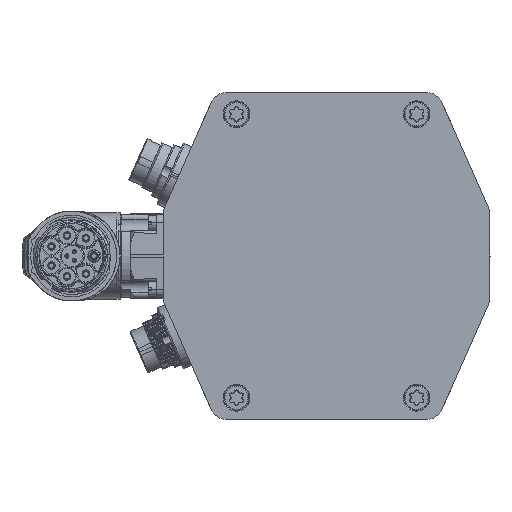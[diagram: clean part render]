
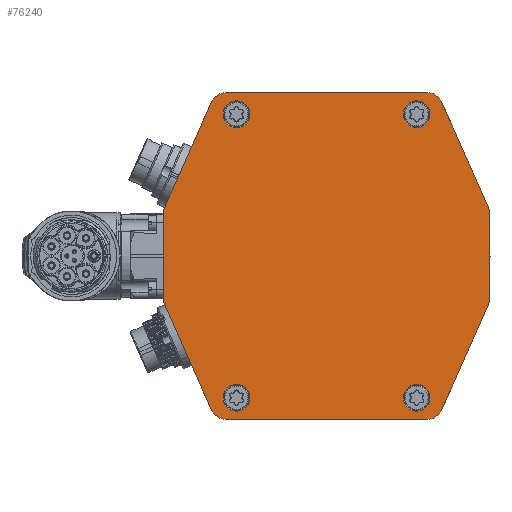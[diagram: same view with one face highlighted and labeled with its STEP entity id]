
A CAD part, left-side view. The second image highlights one B-rep face of the part: STEP entity #76240.
In plain terms, the highlighted planar face has unit normal (-1, 0, 0).
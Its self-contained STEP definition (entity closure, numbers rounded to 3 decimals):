
#6171=CARTESIAN_POINT('',(-275.,-30.,-44.));
#6172=DIRECTION('',(-1.,0.,0.));
#6173=DIRECTION('',(0.,0.,-1.));
#6174=AXIS2_PLACEMENT_3D('',#6171,#6172,#6173);
#6176=DIRECTION('',(0.,-1.,0.));
#6177=VECTOR('',#6176,60.);
#6178=CARTESIAN_POINT('',(-275.,30.,-49.));
#6179=LINE('',#6178,#6177);
#6180=CARTESIAN_POINT('',(-275.,30.,-44.));
#6181=DIRECTION('',(-1.,0.,0.));
#6182=DIRECTION('',(0.,0.914,-0.405));
#6183=AXIS2_PLACEMENT_3D('',#6180,#6181,#6182);
#6185=DIRECTION('',(0.,-0.405,-0.914));
#6186=VECTOR('',#6185,35.228);
#6187=CARTESIAN_POINT('',(-275.,48.829,-13.809));
#6188=LINE('',#6187,#6186);
#6189=CARTESIAN_POINT('',(-275.,47.,-13.));
#6190=DIRECTION('',(-1.,0.,0.));
#6191=DIRECTION('',(0.,1.,0.));
#6192=AXIS2_PLACEMENT_3D('',#6189,#6190,#6191);
#6194=DIRECTION('',(0.,0.,-1.));
#6195=VECTOR('',#6194,26.);
#6196=CARTESIAN_POINT('',(-275.,49.,13.));
#6197=LINE('',#6196,#6195);
#6198=CARTESIAN_POINT('',(-275.,47.,13.));
#6199=DIRECTION('',(-1.,0.,0.));
#6200=DIRECTION('',(0.,0.914,0.405));
#6201=AXIS2_PLACEMENT_3D('',#6198,#6199,#6200);
#6203=DIRECTION('',(0.,0.405,-0.914));
#6204=VECTOR('',#6203,35.228);
#6205=CARTESIAN_POINT('',(-275.,34.572,46.023));
#6206=LINE('',#6205,#6204);
#6207=CARTESIAN_POINT('',(-275.,30.,44.));
#6208=DIRECTION('',(-1.,0.,0.));
#6209=DIRECTION('',(0.,0.,1.));
#6210=AXIS2_PLACEMENT_3D('',#6207,#6208,#6209);
#6212=DIRECTION('',(0.,1.,0.));
#6213=VECTOR('',#6212,60.);
#6214=CARTESIAN_POINT('',(-275.,-30.,49.));
#6215=LINE('',#6214,#6213);
#6216=CARTESIAN_POINT('',(-275.,-30.,44.));
#6217=DIRECTION('',(-1.,0.,0.));
#6218=DIRECTION('',(0.,-0.914,0.405));
#6219=AXIS2_PLACEMENT_3D('',#6216,#6217,#6218);
#6221=DIRECTION('',(0.,0.405,0.914));
#6222=VECTOR('',#6221,35.228);
#6223=CARTESIAN_POINT('',(-275.,-48.829,13.809));
#6224=LINE('',#6223,#6222);
#6225=CARTESIAN_POINT('',(-275.,-47.,13.));
#6226=DIRECTION('',(-1.,0.,0.));
#6227=DIRECTION('',(0.,-1.,0.));
#6228=AXIS2_PLACEMENT_3D('',#6225,#6226,#6227);
#6230=DIRECTION('',(0.,0.,1.));
#6231=VECTOR('',#6230,26.);
#6232=CARTESIAN_POINT('',(-275.,-49.,-13.));
#6233=LINE('',#6232,#6231);
#6234=CARTESIAN_POINT('',(-275.,-47.,-13.));
#6235=DIRECTION('',(-1.,0.,0.));
#6236=DIRECTION('',(0.,-0.914,-0.405));
#6237=AXIS2_PLACEMENT_3D('',#6234,#6235,#6236);
#6239=DIRECTION('',(0.,-0.405,0.914));
#6240=VECTOR('',#6239,35.228);
#6241=CARTESIAN_POINT('',(-275.,-34.572,-46.023));
#6242=LINE('',#6241,#6240);
#6243=CARTESIAN_POINT('',(-275.,27.,-42.5));
#6244=DIRECTION('',(-1.,0.,0.));
#6245=DIRECTION('',(0.,0.,-1.));
#6246=AXIS2_PLACEMENT_3D('',#6243,#6244,#6245);
#6248=CARTESIAN_POINT('',(-275.,27.,-42.5));
#6249=DIRECTION('',(-1.,0.,0.));
#6250=DIRECTION('',(0.,0.,1.));
#6251=AXIS2_PLACEMENT_3D('',#6248,#6249,#6250);
#6253=CARTESIAN_POINT('',(-275.,27.,42.5));
#6254=DIRECTION('',(1.,0.,0.));
#6255=DIRECTION('',(0.,0.,1.));
#6256=AXIS2_PLACEMENT_3D('',#6253,#6254,#6255);
#6258=CARTESIAN_POINT('',(-275.,27.,42.5));
#6259=DIRECTION('',(1.,0.,0.));
#6260=DIRECTION('',(0.,0.,-1.));
#6261=AXIS2_PLACEMENT_3D('',#6258,#6259,#6260);
#6263=CARTESIAN_POINT('',(-275.,-27.,-42.5));
#6264=DIRECTION('',(1.,0.,0.));
#6265=DIRECTION('',(0.,0.,-1.));
#6266=AXIS2_PLACEMENT_3D('',#6263,#6264,#6265);
#6268=CARTESIAN_POINT('',(-275.,-27.,-42.5));
#6269=DIRECTION('',(1.,0.,0.));
#6270=DIRECTION('',(0.,0.,1.));
#6271=AXIS2_PLACEMENT_3D('',#6268,#6269,#6270);
#6273=CARTESIAN_POINT('',(-275.,-27.,42.5));
#6274=DIRECTION('',(-1.,0.,0.));
#6275=DIRECTION('',(0.,0.,1.));
#6276=AXIS2_PLACEMENT_3D('',#6273,#6274,#6275);
#6278=CARTESIAN_POINT('',(-275.,-27.,42.5));
#6279=DIRECTION('',(-1.,0.,0.));
#6280=DIRECTION('',(0.,0.,-1.));
#6281=AXIS2_PLACEMENT_3D('',#6278,#6279,#6280);
#68303=CARTESIAN_POINT('',(-275.,-30.,-49.));
#68304=CARTESIAN_POINT('',(-275.,-34.572,-46.023));
#68305=VERTEX_POINT('',#68303);
#68306=VERTEX_POINT('',#68304);
#68307=CARTESIAN_POINT('',(-275.,-48.829,-13.809));
#68308=VERTEX_POINT('',#68307);
#68309=CARTESIAN_POINT('',(-275.,-49.,-13.));
#68310=VERTEX_POINT('',#68309);
#68311=CARTESIAN_POINT('',(-275.,-49.,13.));
#68312=VERTEX_POINT('',#68311);
#68313=CARTESIAN_POINT('',(-275.,-48.829,13.809));
#68314=VERTEX_POINT('',#68313);
#68315=CARTESIAN_POINT('',(-275.,-34.572,46.023));
#68316=VERTEX_POINT('',#68315);
#68317=CARTESIAN_POINT('',(-275.,-30.,49.));
#68318=VERTEX_POINT('',#68317);
#68319=CARTESIAN_POINT('',(-275.,30.,49.));
#68320=VERTEX_POINT('',#68319);
#68321=CARTESIAN_POINT('',(-275.,34.572,46.023));
#68322=VERTEX_POINT('',#68321);
#68323=CARTESIAN_POINT('',(-275.,48.829,13.809));
#68324=VERTEX_POINT('',#68323);
#68325=CARTESIAN_POINT('',(-275.,49.,13.));
#68326=VERTEX_POINT('',#68325);
#68327=CARTESIAN_POINT('',(-275.,49.,-13.));
#68328=VERTEX_POINT('',#68327);
#68329=CARTESIAN_POINT('',(-275.,48.829,-13.809));
#68330=VERTEX_POINT('',#68329);
#68331=CARTESIAN_POINT('',(-275.,34.572,-46.023));
#68332=VERTEX_POINT('',#68331);
#68333=CARTESIAN_POINT('',(-275.,30.,-49.));
#68334=VERTEX_POINT('',#68333);
#68347=CARTESIAN_POINT('',(-275.,27.,-46.5));
#68348=CARTESIAN_POINT('',(-275.,27.,-38.5));
#68349=VERTEX_POINT('',#68347);
#68350=VERTEX_POINT('',#68348);
#68355=CARTESIAN_POINT('',(-275.,27.,46.5));
#68356=VERTEX_POINT('',#68355);
#68357=CARTESIAN_POINT('',(-275.,27.,38.5));
#68358=VERTEX_POINT('',#68357);
#68363=CARTESIAN_POINT('',(-275.,-27.,-46.5));
#68364=VERTEX_POINT('',#68363);
#68365=CARTESIAN_POINT('',(-275.,-27.,-38.5));
#68366=VERTEX_POINT('',#68365);
#68371=CARTESIAN_POINT('',(-275.,-27.,46.5));
#68372=VERTEX_POINT('',#68371);
#68373=CARTESIAN_POINT('',(-275.,-27.,38.5));
#68374=VERTEX_POINT('',#68373);
#76193=CARTESIAN_POINT('',(-275.,0.,0.));
#76194=DIRECTION('',(-1.,0.,0.));
#76195=DIRECTION('',(0.,1.,0.));
#76196=AXIS2_PLACEMENT_3D('',#76193,#76194,#76195);
#76197=PLANE('',#76196);
#76198=ORIENTED_EDGE('',*,*,#75977,.F.);
#76199=ORIENTED_EDGE('',*,*,#75992,.F.);
#76200=ORIENTED_EDGE('',*,*,#76006,.F.);
#76201=ORIENTED_EDGE('',*,*,#76020,.F.);
#76202=ORIENTED_EDGE('',*,*,#76034,.F.);
#76203=ORIENTED_EDGE('',*,*,#76048,.F.);
#76204=ORIENTED_EDGE('',*,*,#76062,.F.);
#76205=ORIENTED_EDGE('',*,*,#76076,.F.);
#76206=ORIENTED_EDGE('',*,*,#76090,.F.);
#76207=ORIENTED_EDGE('',*,*,#76104,.F.);
#76208=ORIENTED_EDGE('',*,*,#76118,.F.);
#76209=ORIENTED_EDGE('',*,*,#76132,.F.);
#76210=ORIENTED_EDGE('',*,*,#76146,.F.);
#76211=ORIENTED_EDGE('',*,*,#76160,.F.);
#76212=ORIENTED_EDGE('',*,*,#76174,.F.);
#76213=ORIENTED_EDGE('',*,*,#76187,.F.);
#76214=EDGE_LOOP('',(#76198,#76199,#76200,#76201,#76202,#76203,#76204,#76205,
#76206,#76207,#76208,#76209,#76210,#76211,#76212,#76213));
#76215=FACE_OUTER_BOUND('',#76214,.F.);
#76217=ORIENTED_EDGE('',*,*,#76216,.T.);
#76219=ORIENTED_EDGE('',*,*,#76218,.T.);
#76220=EDGE_LOOP('',(#76217,#76219));
#76221=FACE_BOUND('',#76220,.F.);
#76223=ORIENTED_EDGE('',*,*,#76222,.F.);
#76225=ORIENTED_EDGE('',*,*,#76224,.F.);
#76226=EDGE_LOOP('',(#76223,#76225));
#76227=FACE_BOUND('',#76226,.F.);
#76229=ORIENTED_EDGE('',*,*,#76228,.F.);
#76231=ORIENTED_EDGE('',*,*,#76230,.F.);
#76232=EDGE_LOOP('',(#76229,#76231));
#76233=FACE_BOUND('',#76232,.F.);
#76235=ORIENTED_EDGE('',*,*,#76234,.T.);
#76237=ORIENTED_EDGE('',*,*,#76236,.T.);
#76238=EDGE_LOOP('',(#76235,#76237));
#76239=FACE_BOUND('',#76238,.F.);
#76240=ADVANCED_FACE('',(#76215,#76221,#76227,#76233,#76239),#76197,.T.);
#6175=CIRCLE('',#6174,5.);
#6184=CIRCLE('',#6183,5.);
#6193=CIRCLE('',#6192,2.);
#6202=CIRCLE('',#6201,2.);
#6211=CIRCLE('',#6210,5.);
#6220=CIRCLE('',#6219,5.);
#6229=CIRCLE('',#6228,2.);
#6238=CIRCLE('',#6237,2.);
#6247=CIRCLE('',#6246,4.);
#6252=CIRCLE('',#6251,4.);
#6257=CIRCLE('',#6256,4.);
#6262=CIRCLE('',#6261,4.);
#6267=CIRCLE('',#6266,4.);
#6272=CIRCLE('',#6271,4.);
#6277=CIRCLE('',#6276,4.);
#6282=CIRCLE('',#6281,4.);
#75977=EDGE_CURVE('',#68305,#68306,#6175,.T.);
#75992=EDGE_CURVE('',#68334,#68305,#6179,.T.);
#76006=EDGE_CURVE('',#68332,#68334,#6184,.T.);
#76020=EDGE_CURVE('',#68330,#68332,#6188,.T.);
#76034=EDGE_CURVE('',#68328,#68330,#6193,.T.);
#76048=EDGE_CURVE('',#68326,#68328,#6197,.T.);
#76062=EDGE_CURVE('',#68324,#68326,#6202,.T.);
#76076=EDGE_CURVE('',#68322,#68324,#6206,.T.);
#76090=EDGE_CURVE('',#68320,#68322,#6211,.T.);
#76104=EDGE_CURVE('',#68318,#68320,#6215,.T.);
#76118=EDGE_CURVE('',#68316,#68318,#6220,.T.);
#76132=EDGE_CURVE('',#68314,#68316,#6224,.T.);
#76146=EDGE_CURVE('',#68312,#68314,#6229,.T.);
#76160=EDGE_CURVE('',#68310,#68312,#6233,.T.);
#76174=EDGE_CURVE('',#68308,#68310,#6238,.T.);
#76187=EDGE_CURVE('',#68306,#68308,#6242,.T.);
#76216=EDGE_CURVE('',#68349,#68350,#6247,.T.);
#76218=EDGE_CURVE('',#68350,#68349,#6252,.T.);
#76222=EDGE_CURVE('',#68356,#68358,#6257,.T.);
#76224=EDGE_CURVE('',#68358,#68356,#6262,.T.);
#76228=EDGE_CURVE('',#68364,#68366,#6267,.T.);
#76230=EDGE_CURVE('',#68366,#68364,#6272,.T.);
#76234=EDGE_CURVE('',#68372,#68374,#6277,.T.);
#76236=EDGE_CURVE('',#68374,#68372,#6282,.T.);
